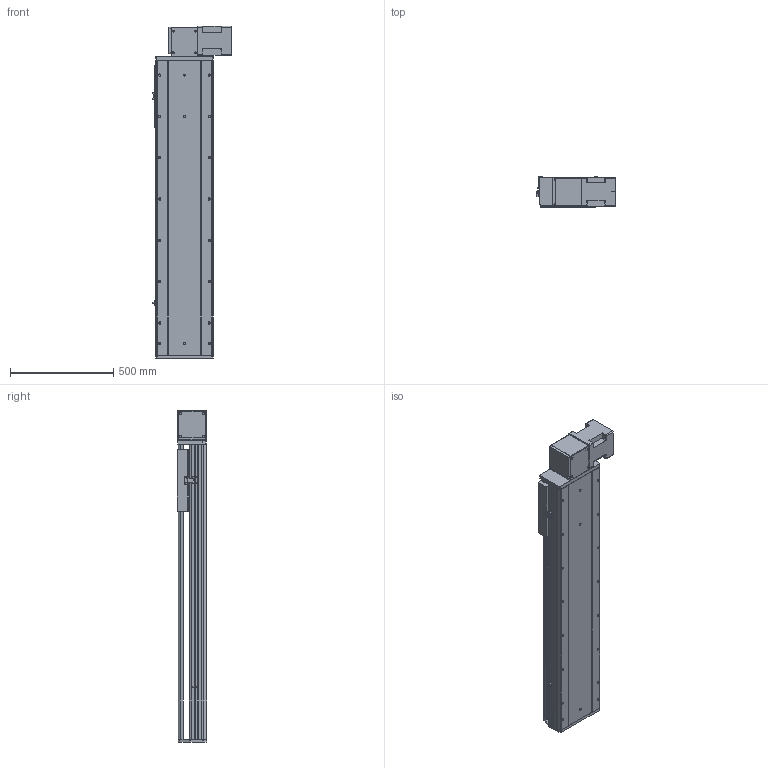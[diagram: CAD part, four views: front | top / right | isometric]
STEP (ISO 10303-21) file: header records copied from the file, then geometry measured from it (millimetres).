
FILE_DESCRIPTION (( 'STEP AP214' ), '1' );
FILE_NAME ('RTB28S-XX-1000-BL-M100-XX-C4.STEP', '2025-12-22T02:19:37', ( '' ), ( '' ), 'SwSTEP 2.0', 'SolidWorks 2018', '' );
FILE_SCHEMA (( 'AUTOMOTIVE_DESIGN' ));
Length unit declared in the file: millimetre
Products named in the file (4): RTB28S-GY-004^RTB28S-XX-XX-BL-M100-XX-C4; RTB28S-XX-1000-BL-M100-XX-C4; RTB28S-GY-011^RTB28S-XX-XX-BL-M100-XX-C4; RTB28S-GY-008^RTB28S-XX-XX-BL-M100-XX-C4
Assembly tree (3 placements, depth 2):
  RTB28S-XX-1000-BL-M100-XX-C4
    RTB28S-GY-011^RTB28S-XX-XX-BL-M100-XX-C4
    RTB28S-GY-004^RTB28S-XX-XX-BL-M100-XX-C4
    RTB28S-GY-008^RTB28S-XX-XX-BL-M100-XX-C4
Bounding box: 380.7 x 145 x 1607 mm (x, y, z)
Volume: 29611442.3 mm3; surface area: 2862022.2 mm2
Topology: 3 solids, 4 shells, 788 faces, 2088 edges, 1328 vertices
Faces by surface type: cylinder 359, plane 345, cone 80, torus 4
Entity records: 29513 total; most frequent: CARTESIAN_POINT 5002, DIRECTION 4422, ORIENTED_EDGE 4112, EDGE_CURVE 2056, AXIS2_PLACEMENT_3D 1596, VERTEX_POINT 1328, LINE 1230, VECTOR 1230
